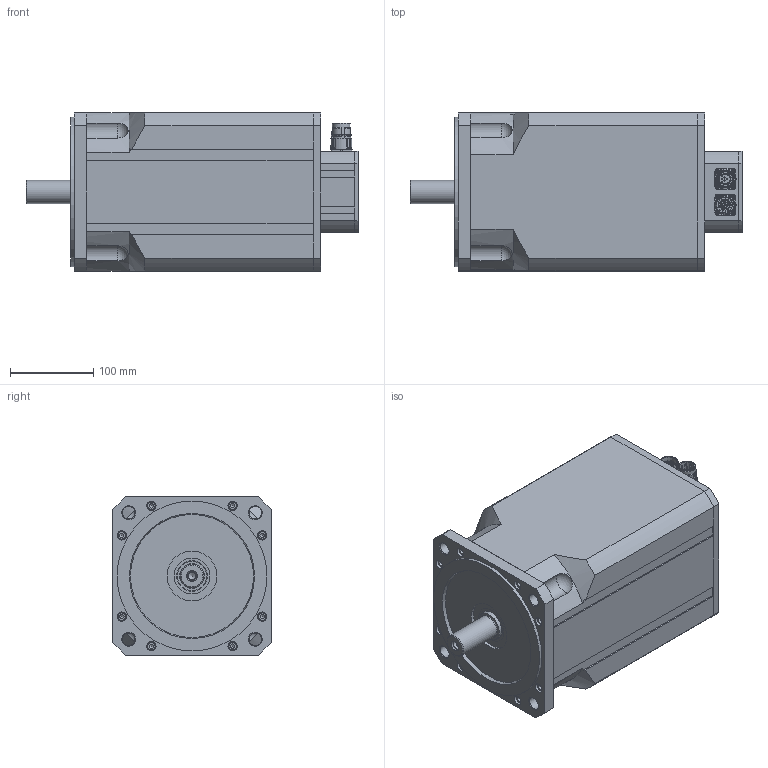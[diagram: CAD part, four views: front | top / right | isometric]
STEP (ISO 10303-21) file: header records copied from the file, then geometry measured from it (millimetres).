
FILE_DESCRIPTION(/* description */ (''),/* implementation_level */ '2;1');
FILE_NAME(/* name */ 'C:\PDF_output\T7000 00 B Z_8P_12P.stp',/* time_stamp */ '2020-03-09T08:09:08+01:00',/* author */ ('oslejsek'),/* organization */ (''),/* preprocessor_version */ 'ST-DEVELOPER v18',/* originating_system */ 'Autodesk Inventor 2020',/* authorisation */ '');
FILE_SCHEMA (('AUTOMOTIVE_DESIGN { 1 0 10303 214 3 1 1 }'));
Products named in the file (5): T7000 00 B Z_8P_12P; T7000 00 B Z_front; T7000 00 B Z_4000_rear; 127331; 127344
Assembly tree (4 placements, depth 2):
  T7000 00 B Z_8P_12P
    T7000 00 B Z_front
    T7000 00 B Z_4000_rear
    127331
    127344
Bounding box: 399 x 190 x 190 mm (x, y, z)
Volume: 10518331.5 mm3; surface area: 449478.8 mm2
Topology: 4 solids, 11 shells, 2143 faces, 5808 edges, 3792 vertices
Faces by surface type: cylinder 860, plane 752, bspline 168, torus 165, cone 155, sphere 43
Full cylindrical faces by diameter (mm): 1 x16, 1.18 x12, 1.3 x4, 2 x5, 2.013 x4, 2.15 x4, 2.208 x8, 2.4 x8, 2.459 x3, 2.5 x8, 2.7 x8, 3 x8, 3.242 x4, 3.3 x4, 3.95 x4, 5 x4, 5.5 x4, 5.7 x3, 5.8 x1, 6 x8, 6.5 x12, 6.8 x1, 8 x5, 8.376 x1, 8.5 x4, 9 x3, 10 x16, 10.5 x1, 11 x16, 13.3 x1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
Entity records: 79839 total; most frequent: CARTESIAN_POINT 22966, DIRECTION 11857, ORIENTED_EDGE 11478, EDGE_CURVE 5739, AXIS2_PLACEMENT_3D 4923, VERTEX_POINT 3788, CIRCLE 2802, EDGE_LOOP 2427
